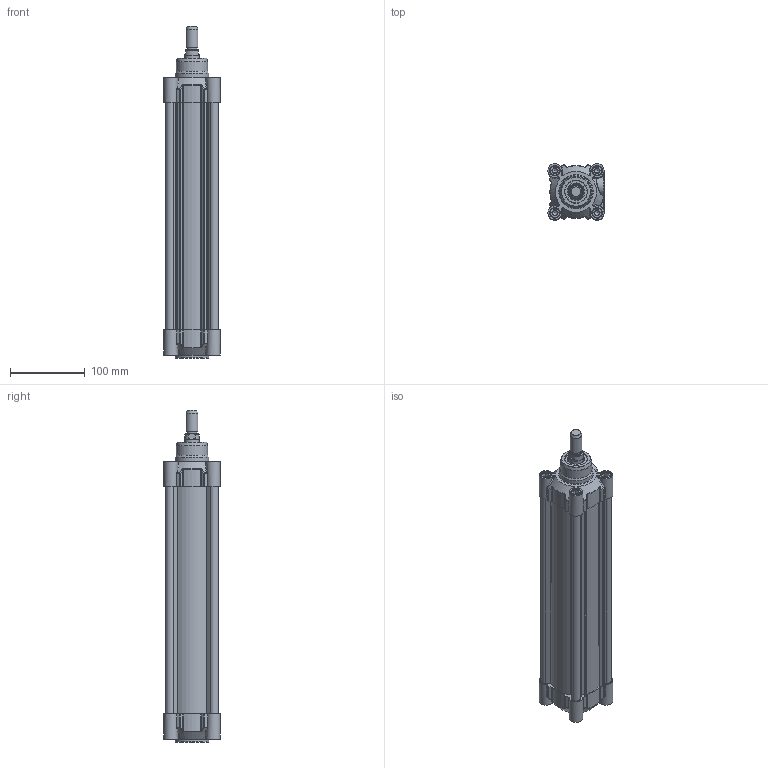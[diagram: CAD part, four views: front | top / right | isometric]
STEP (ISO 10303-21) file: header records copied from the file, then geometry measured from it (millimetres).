
FILE_DESCRIPTION(/* description */ ('CILINDRO D.E. MAGNETICO AMMORTIZZATO ISO 15552'),/* implementation_level */ '2;1');
FILE_NAME(/* name */ 'T:\Archivio Inventor\- 00 NUOVI STP PER SITO CON STELO CHE SI MUOVE\SERIE H - U\SERIE HDM\HDM063 - TUBO NUOVO\HDM063.250.GS.M.stp',/* time_stamp */ '2018-07-30T14:38:34+02:00',/* author */ ('carlo.corazza'),/* organization */ (''),/* preprocessor_version */ 'ST-DEVELOPER v16.5',/* originating_system */ 'Autodesk Inventor 2017',/* authorisation */ '');
FILE_SCHEMA (('AUTOMOTIVE_DESIGN { 1 0 10303 214 3 1 1 }'));
Length unit declared in the file: millimetre
Products named in the file (5): HDM063.250.GS.M; TP; TA; STELO-250; CORPO-250
Assembly tree (4 placements, depth 2):
  HDM063.250.GS.M
    TP
    TA
    STELO-250
    CORPO-250
Bounding box: 75 x 75 x 444 mm (x, y, z)
Volume: 675671.2 mm3; surface area: 324674.2 mm2
Topology: 4 solids, 27 shells, 1241 faces, 2936 edges, 1818 vertices
Faces by surface type: plane 368, cylinder 297, bspline 288, torus 108, cone 106, sphere 74
Full cylindrical faces by diameter (mm): 3 x2, 3.4 x2, 4.8 x2, 5.25 x2, 6.647 x8, 8 x8, 8.3 x12, 9.8 x4, 9.9 x2, 10 x6, 12 x3, 13 x8, 13.3 x8, 13.5 x1, 14.95 x2, 16 x1, 19.5 x1, 20 x1, 20.8 x1, 20.847 x1, 24 x1, 26 x2, 30 x3, 42 x1, 45 x2, 63 x1
Entity records: 40768 total; most frequent: CARTESIAN_POINT 13071, ORIENTED_EDGE 5326, DIRECTION 5100, EDGE_CURVE 2663, AXIS2_PLACEMENT_3D 2037, VERTEX_POINT 1763, EDGE_LOOP 1576, STYLED_ITEM 1245
